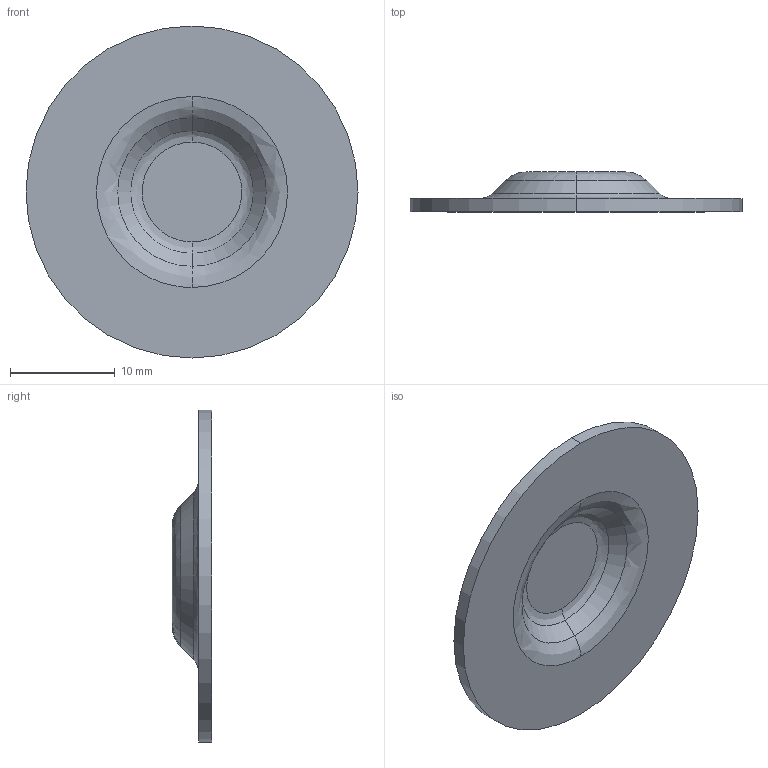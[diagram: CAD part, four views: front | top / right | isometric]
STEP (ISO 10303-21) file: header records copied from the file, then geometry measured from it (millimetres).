
FILE_DESCRIPTION (( 'STEP AP214' ), '1' );
FILE_NAME ('SO 2056682-10.STEP', '2024-09-16T14:56:40', ( '' ), ( '' ), 'SwSTEP 2.0', 'SolidWorks 2024', '' );
FILE_SCHEMA (( 'AUTOMOTIVE_DESIGN' ));
Length unit declared in the file: inch
Products named in the file (1): SO 2056682-10
Bounding box: 31.75 x 3.81 x 31.75 mm (x, y, z)
Volume: 1053.3 mm3; surface area: 1785.3 mm2
Topology: 1 solids, 1 shells, 18 faces, 34 edges, 20 vertices
Faces by surface type: bspline 8, cone 4, plane 4, cylinder 2
Entity records: 683 total; most frequent: CARTESIAN_POINT 329, DIRECTION 68, ORIENTED_EDGE 68, EDGE_CURVE 34, AXIS2_PLACEMENT_3D 31, CIRCLE 20, EDGE_LOOP 20, VERTEX_POINT 20
